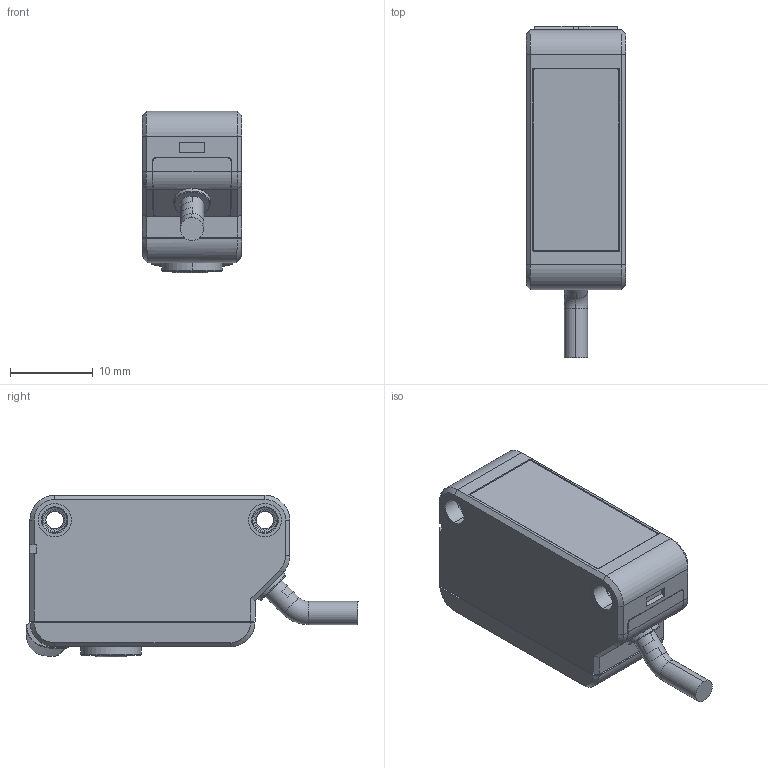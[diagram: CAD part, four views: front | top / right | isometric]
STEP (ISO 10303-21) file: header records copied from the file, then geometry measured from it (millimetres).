
FILE_DESCRIPTION((''),'2;1');
FILE_NAME('0-BEIJINGYIZHI_ASM','2023-02-27T11:39:42',('HP'),(''),'CREO PARAMETRIC BY PTC INC, 2019224','CREO PARAMETRIC BY PTC INC, 2019224','');
FILE_SCHEMA(('CONFIG_CONTROL_DESIGN','SHAPE_APPEARANCE_LAYERS_GROUPS'));
Length unit declared in the file: millimetre
Products named in the file (8): 50-0140131-TP; 50-0140135-TP-BUTTON; 50-0140101-BP; 50-0140134-BP-BUTTON; M3X12; 0001; 50-0100017-WIRE; 0-BEIJINGYIZHI_ASM
Assembly tree (8 placements, depth 2):
  0-BEIJINGYIZHI_ASM
    50-0140131-TP
    50-0140135-TP-BUTTON
    50-0140101-BP
    50-0140134-BP-BUTTON
    M3X12  x2
    0001
    50-0100017-WIRE
Bounding box: 12 x 40.11 x 19.5 mm (x, y, z)
Volume: 6382.8 mm3; surface area: 4861.5 mm2
Topology: 8 solids, 8 shells, 650 faces, 1741 edges, 1135 vertices
Faces by surface type: plane 382, cylinder 158, bspline 48, cone 26, torus 14, extrusion 12, sphere 10
Entity records: 25600 total; most frequent: CARTESIAN_POINT 8396, ORIENTED_EDGE 2744, DIRECTION 2369, PRESENTATION_STYLE_ASSIGNMENT 1402, STYLED_ITEM 1380, CURVE_STYLE 1373, EDGE_CURVE 1372, VECTOR 953
